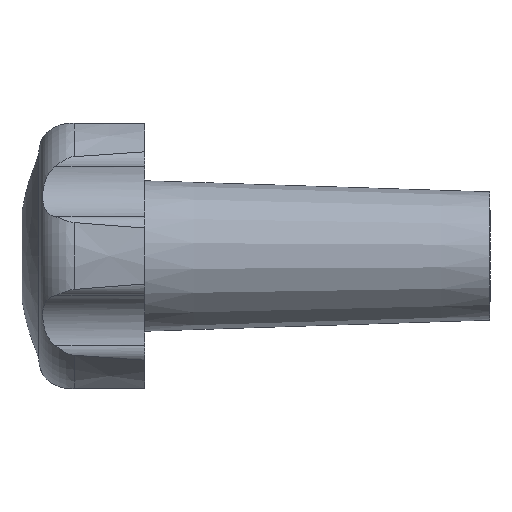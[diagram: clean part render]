
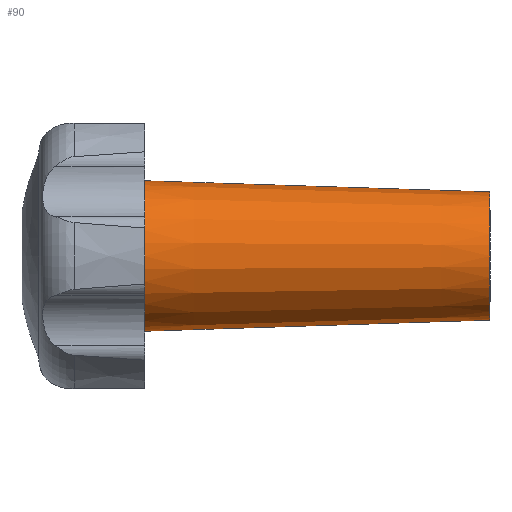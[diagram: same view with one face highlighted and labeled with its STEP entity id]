
A CAD part, left-side view. The second image highlights one B-rep face of the part: STEP entity #90.
In plain terms, the highlighted conical face has half-angle 1.848 degrees and reference radius 13.5 mm.
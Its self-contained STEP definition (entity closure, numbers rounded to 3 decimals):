
#90 = ADVANCED_FACE( '', ( #148, #149 ), #150, .T. );
#148 = FACE_BOUND( '', #259, .T. );
#149 = FACE_OUTER_BOUND( '', #260, .T. );
#150 = CONICAL_SURFACE( '', #261, 13.5, 0.032 );
#259 = EDGE_LOOP( '', ( #427 ) );
#260 = EDGE_LOOP( '', ( #428 ) );
#261 = AXIS2_PLACEMENT_3D( '', #429, #430, #431 );
#427 = ORIENTED_EDGE( '', *, *, #625, .F. );
#428 = ORIENTED_EDGE( '', *, *, #573, .T. );
#429 = CARTESIAN_POINT( '', ( 0., 62., 0. ) );
#430 = DIRECTION( '', ( 0., 1., 0. ) );
#431 = DIRECTION( '', ( 0., 0., 1. ) );
#573 = EDGE_CURVE( '', #669, #669, #670, .T. );
#625 = EDGE_CURVE( '', #760, #760, #761, .T. );
#669 = VERTEX_POINT( '', #917 );
#670 = CIRCLE( '', #918, 13.5 );
#760 = VERTEX_POINT( '', #1365 );
#761 = CIRCLE( '', #1366, 11.5 );
#917 = CARTESIAN_POINT( '', ( 0., 62., -13.5 ) );
#918 = AXIS2_PLACEMENT_3D( '', #1456, #1457, #1458 );
#1365 = CARTESIAN_POINT( '', ( 0., 0., -11.5 ) );
#1366 = AXIS2_PLACEMENT_3D( '', #1541, #1542, #1543 );
#1456 = CARTESIAN_POINT( '', ( 0., 62., 0. ) );
#1457 = DIRECTION( '', ( 0., -1., 0. ) );
#1458 = DIRECTION( '', ( 0., 0., -1. ) );
#1541 = CARTESIAN_POINT( '', ( 0., 0., 0. ) );
#1542 = DIRECTION( '', ( 0., -1., 0. ) );
#1543 = DIRECTION( '', ( 0., 0., -1. ) );
